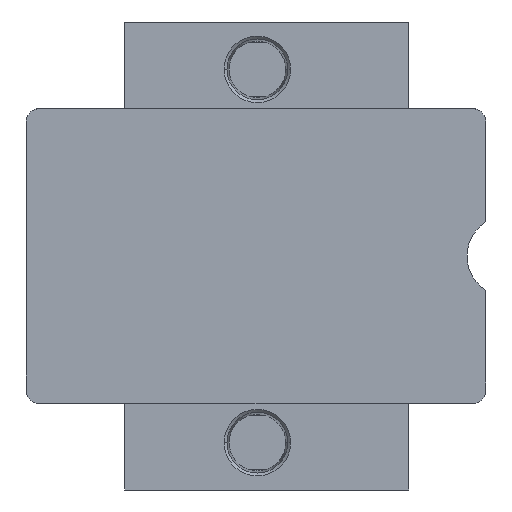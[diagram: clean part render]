
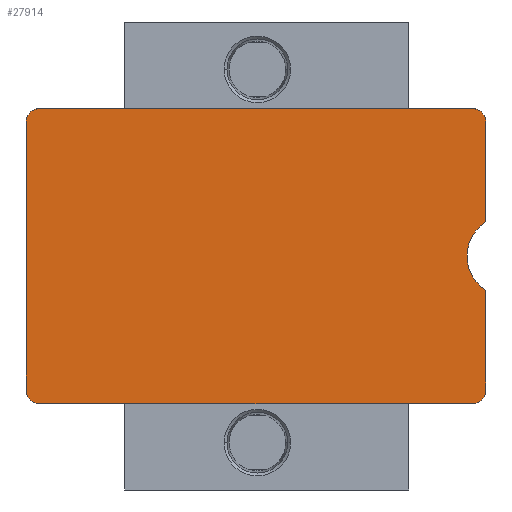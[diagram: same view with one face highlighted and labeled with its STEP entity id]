
A CAD part, front view. The second image highlights one B-rep face of the part: STEP entity #27914.
In plain terms, the highlighted planar face has unit normal (0, -1, 0).
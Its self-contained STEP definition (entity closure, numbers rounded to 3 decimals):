
#10726=DIRECTION('',(-1.,0.,0.));
#10727=VECTOR('',#10726,16.);
#10728=CARTESIAN_POINT('',(7.95,2.,-10.705));
#10729=LINE('',#10728,#10727);
#10754=DIRECTION('',(0.,0.,1.));
#10755=VECTOR('',#10754,9.9);
#10756=CARTESIAN_POINT('',(-8.55,2.,-10.205));
#10757=LINE('',#10756,#10755);
#10775=DIRECTION('',(1.,0.,0.));
#10776=VECTOR('',#10775,16.);
#10777=CARTESIAN_POINT('',(-8.05,2.,0.195));
#10778=LINE('',#10777,#10776);
#10851=DIRECTION('',(0.,0.,-1.));
#10852=VECTOR('',#10851,3.681);
#10853=CARTESIAN_POINT('',(8.45,2.,-0.305));
#10854=LINE('',#10853,#10852);
#10921=CARTESIAN_POINT('',(7.95,2.,-0.305));
#10922=DIRECTION('',(0.,-1.,0.));
#10923=DIRECTION('',(1.,0.,0.));
#10924=AXIS2_PLACEMENT_3D('',#10921,#10922,#10923);
#10926=CARTESIAN_POINT('',(9.25,2.,-5.255));
#10927=DIRECTION('',(0.,1.,0.));
#10928=DIRECTION('',(-0.533,0.,-0.846));
#10929=AXIS2_PLACEMENT_3D('',#10926,#10927,#10928);
#10931=CARTESIAN_POINT('',(7.95,2.,-10.205));
#10932=DIRECTION('',(0.,-1.,0.));
#10933=DIRECTION('',(0.,0.,-1.));
#10934=AXIS2_PLACEMENT_3D('',#10931,#10932,#10933);
#10936=CARTESIAN_POINT('',(-8.05,2.,-10.205));
#10937=DIRECTION('',(0.,-1.,0.));
#10938=DIRECTION('',(-1.,0.,0.));
#10939=AXIS2_PLACEMENT_3D('',#10936,#10937,#10938);
#10941=CARTESIAN_POINT('',(-8.05,2.,-0.305));
#10942=DIRECTION('',(0.,-1.,0.));
#10943=DIRECTION('',(0.,0.,1.));
#10944=AXIS2_PLACEMENT_3D('',#10941,#10942,#10943);
#10958=DIRECTION('',(0.,0.,-1.));
#10959=VECTOR('',#10958,3.681);
#10960=CARTESIAN_POINT('',(8.45,2.,-6.524));
#10961=LINE('',#10960,#10959);
#13630=CARTESIAN_POINT('',(8.45,2.,-0.305));
#13631=CARTESIAN_POINT('',(7.95,2.,0.195));
#13632=VERTEX_POINT('',#13630);
#13633=VERTEX_POINT('',#13631);
#13634=CARTESIAN_POINT('',(8.45,2.,-3.986));
#13635=VERTEX_POINT('',#13634);
#13636=CARTESIAN_POINT('',(8.45,2.,-6.524));
#13637=VERTEX_POINT('',#13636);
#13638=CARTESIAN_POINT('',(8.45,2.,-10.205));
#13639=VERTEX_POINT('',#13638);
#13640=CARTESIAN_POINT('',(7.95,2.,-10.705));
#13641=VERTEX_POINT('',#13640);
#13642=CARTESIAN_POINT('',(-8.05,2.,-10.705));
#13643=VERTEX_POINT('',#13642);
#13644=CARTESIAN_POINT('',(-8.55,2.,-10.205));
#13645=VERTEX_POINT('',#13644);
#13646=CARTESIAN_POINT('',(-8.55,2.,-0.305));
#13647=VERTEX_POINT('',#13646);
#13648=CARTESIAN_POINT('',(-8.05,2.,0.195));
#13649=VERTEX_POINT('',#13648);
#27894=CARTESIAN_POINT('',(-0.05,2.,-5.255));
#27895=DIRECTION('',(0.,1.,0.));
#27896=DIRECTION('',(0.,0.,-1.));
#27897=AXIS2_PLACEMENT_3D('',#27894,#27895,#27896);
#27898=PLANE('',#27897);
#27899=ORIENTED_EDGE('',*,*,#27697,.T.);
#27900=ORIENTED_EDGE('',*,*,#27825,.F.);
#27901=ORIENTED_EDGE('',*,*,#27810,.T.);
#27903=ORIENTED_EDGE('',*,*,#27902,.F.);
#27905=ORIENTED_EDGE('',*,*,#27904,.T.);
#27907=ORIENTED_EDGE('',*,*,#27906,.F.);
#27908=ORIENTED_EDGE('',*,*,#27630,.T.);
#27909=ORIENTED_EDGE('',*,*,#27651,.F.);
#27910=ORIENTED_EDGE('',*,*,#27666,.T.);
#27911=ORIENTED_EDGE('',*,*,#27680,.F.);
#27912=EDGE_LOOP('',(#27899,#27900,#27901,#27903,#27905,#27907,#27908,#27909,
#27910,#27911));
#27913=FACE_OUTER_BOUND('',#27912,.F.);
#27914=ADVANCED_FACE('',(#27913),#27898,.F.);
#10925=CIRCLE('',#10924,0.5);
#10930=CIRCLE('',#10929,1.5);
#10935=CIRCLE('',#10934,0.5);
#10940=CIRCLE('',#10939,0.5);
#10945=CIRCLE('',#10944,0.5);
#27630=EDGE_CURVE('',#13641,#13643,#10729,.T.);
#27651=EDGE_CURVE('',#13645,#13643,#10940,.T.);
#27666=EDGE_CURVE('',#13645,#13647,#10757,.T.);
#27680=EDGE_CURVE('',#13649,#13647,#10945,.T.);
#27697=EDGE_CURVE('',#13649,#13633,#10778,.T.);
#27810=EDGE_CURVE('',#13632,#13635,#10854,.T.);
#27825=EDGE_CURVE('',#13632,#13633,#10925,.T.);
#27902=EDGE_CURVE('',#13637,#13635,#10930,.T.);
#27904=EDGE_CURVE('',#13637,#13639,#10961,.T.);
#27906=EDGE_CURVE('',#13641,#13639,#10935,.T.);
